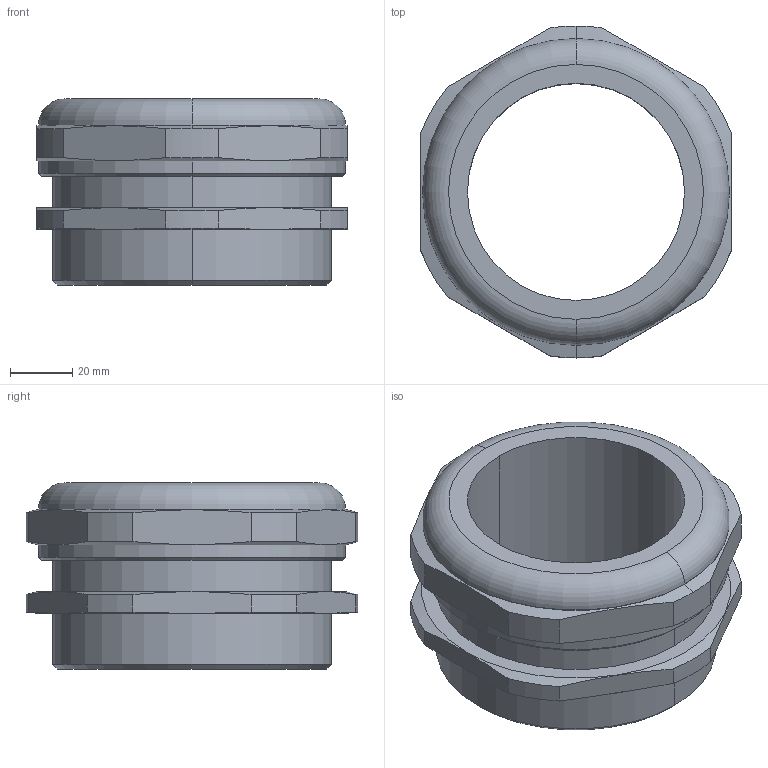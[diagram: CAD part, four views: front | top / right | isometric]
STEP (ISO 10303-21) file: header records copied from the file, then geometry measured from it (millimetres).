
FILE_DESCRIPTION (( 'STEP AP203' ), '1' );
FILE_NAME ('1010M90.STEP', '2006-08-11T08:47:41', ( ' ' ), ( '' ), 'SwSTEP 2.0', 'SolidWorks 2005278', '' );
FILE_SCHEMA (( 'CONFIG_CONTROL_DESIGN' ));
Length unit declared in the file: millimetre
Products named in the file (1): 1010M90
Bounding box: 100 x 107 x 60 mm (x, y, z)
Volume: 201573.8 mm3; surface area: 42670.5 mm2
Topology: 1 solids, 1 shells, 92 faces, 239 edges, 155 vertices
Faces by surface type: plane 54, cylinder 24, cone 12, torus 2
Entity records: 3009 total; most frequent: CARTESIAN_POINT 665, ORIENTED_EDGE 478, DIRECTION 462, EDGE_CURVE 239, AXIS2_PLACEMENT_3D 156, VERTEX_POINT 155, LINE 150, VECTOR 150
